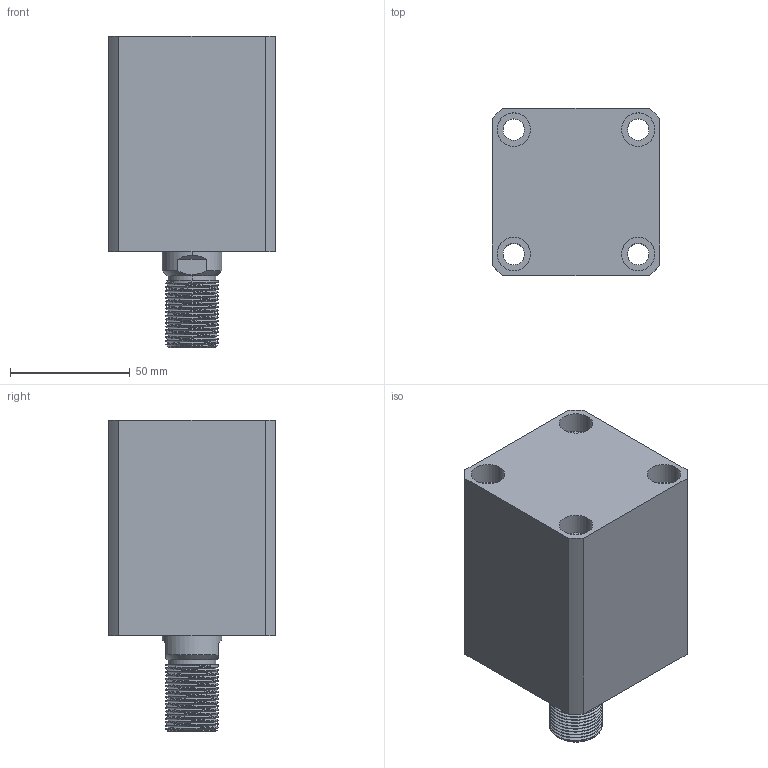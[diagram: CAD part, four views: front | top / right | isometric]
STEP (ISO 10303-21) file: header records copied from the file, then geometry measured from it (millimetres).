
FILE_DESCRIPTION (( 'STEP AP214' ), '1' );
FILE_NAME ('chtb-sd40x35w_asm.STEP', '2018-06-08T02:25:19', ( 'Windows' ), ( 'Microsoft' ), 'SwSTEP 2.0', 'SolidWorks 2015', '' );
FILE_SCHEMA (( 'AUTOMOTIVE_DESIGN' ));
Length unit declared in the file: millimetre
Products named in the file (4): CHTB-SD40QG; CHTB-SD40X35WHSG; CHTB-SD40X35NBT; chtb-sd40x35w_asm
Assembly tree (3 placements, depth 2):
  chtb-sd40x35w_asm
    CHTB-SD40X35NBT
    CHTB-SD40X35WHSG
    CHTB-SD40QG
Bounding box: 70 x 70 x 130 mm (x, y, z)
Volume: 390544.3 mm3; surface area: 81879.8 mm2
Topology: 3 solids, 4 shells, 203 faces, 533 edges, 355 vertices
Faces by surface type: cylinder 118, plane 40, bspline 16, cone 15, torus 14
Entity records: 13425 total; most frequent: CARTESIAN_POINT 8554, ORIENTED_EDGE 1054, DIRECTION 914, EDGE_CURVE 527, AXIS2_PLACEMENT_3D 380, VERTEX_POINT 355, EDGE_LOOP 240, ADVANCED_FACE 203
